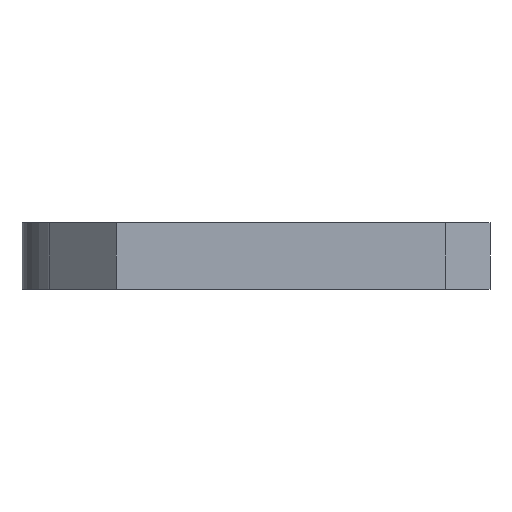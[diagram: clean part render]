
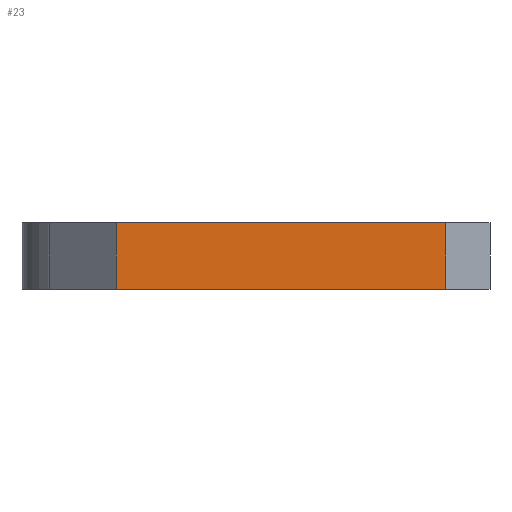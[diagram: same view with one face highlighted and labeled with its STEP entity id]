
A CAD part, front view. The second image highlights one B-rep face of the part: STEP entity #23.
In plain terms, the highlighted free-form (B-spline) face has degree [2, 1] with [3, 2] control points.
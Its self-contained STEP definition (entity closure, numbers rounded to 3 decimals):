
#23=ADVANCED_FACE('',(#71),#757,.T.);
#71=FACE_OUTER_BOUND('',#119,.T.);
#119=EDGE_LOOP('',(#247,#248,#249,#250));
#247=ORIENTED_EDGE('',*,*,#422,.T.);
#248=ORIENTED_EDGE('',*,*,#442,.T.);
#249=ORIENTED_EDGE('',*,*,#415,.F.);
#250=ORIENTED_EDGE('',*,*,#445,.F.);
#415=EDGE_CURVE('',#683,#684,#580,.T.);
#422=EDGE_CURVE('',#709,#710,#587,.T.);
#442=EDGE_CURVE('',#710,#684,#607,.T.);
#445=EDGE_CURVE('',#709,#683,#610,.T.);
#580=(
BOUNDED_CURVE()
B_SPLINE_CURVE(2,(#1440,#1441,#1442),.UNSPECIFIED.,.F.,.F.)
B_SPLINE_CURVE_WITH_KNOTS((3,3),(540.736,590.244),
 .UNSPECIFIED.)
CURVE()
GEOMETRIC_REPRESENTATION_ITEM()
RATIONAL_B_SPLINE_CURVE((1.,1.,1.))
REPRESENTATION_ITEM('')
);
#587=(
BOUNDED_CURVE()
B_SPLINE_CURVE(2,(#1467,#1468,#1469),.UNSPECIFIED.,.F.,.F.)
B_SPLINE_CURVE_WITH_KNOTS((3,3),(540.736,590.244),
 .UNSPECIFIED.)
CURVE()
GEOMETRIC_REPRESENTATION_ITEM()
RATIONAL_B_SPLINE_CURVE((1.,1.,1.))
REPRESENTATION_ITEM('')
);
#607=(
BOUNDED_CURVE()
B_SPLINE_CURVE(1,(#1528,#1529),.UNSPECIFIED.,.F.,.F.)
B_SPLINE_CURVE_WITH_KNOTS((2,2),(0.,10.),.UNSPECIFIED.)
CURVE()
GEOMETRIC_REPRESENTATION_ITEM()
RATIONAL_B_SPLINE_CURVE((1.,1.))
REPRESENTATION_ITEM('')
);
#610=(
BOUNDED_CURVE()
B_SPLINE_CURVE(1,(#1536,#1537),.UNSPECIFIED.,.F.,.F.)
B_SPLINE_CURVE_WITH_KNOTS((2,2),(0.,10.),.UNSPECIFIED.)
CURVE()
GEOMETRIC_REPRESENTATION_ITEM()
RATIONAL_B_SPLINE_CURVE((1.,1.))
REPRESENTATION_ITEM('')
);
#683=VERTEX_POINT('',#1366);
#684=VERTEX_POINT('',#1367);
#709=VERTEX_POINT('',#1392);
#710=VERTEX_POINT('',#1393);
#757=(
BOUNDED_SURFACE()
B_SPLINE_SURFACE(2,1,((#879,#880),(#881,#882),(#883,#884)),
 .UNSPECIFIED.,.F.,.F.,.F.)
B_SPLINE_SURFACE_WITH_KNOTS((3,3),(2,2),(540.736,590.244),
(0.,10.),.UNSPECIFIED.)
GEOMETRIC_REPRESENTATION_ITEM()
RATIONAL_B_SPLINE_SURFACE(((1.,1.),(1.,1.),(1.,1.)))
REPRESENTATION_ITEM('')
SURFACE()
);
#879=CARTESIAN_POINT('',(69.334,-62.122,30.));
#880=CARTESIAN_POINT('',(69.334,-62.122,40.));
#881=CARTESIAN_POINT('',(94.088,-62.122,30.));
#882=CARTESIAN_POINT('',(94.088,-62.122,40.));
#883=CARTESIAN_POINT('',(118.842,-62.122,30.));
#884=CARTESIAN_POINT('',(118.842,-62.122,40.));
#1366=CARTESIAN_POINT('',(69.334,-62.122,40.));
#1367=CARTESIAN_POINT('',(118.842,-62.122,40.));
#1392=CARTESIAN_POINT('',(69.334,-62.122,30.));
#1393=CARTESIAN_POINT('',(118.842,-62.122,30.));
#1440=CARTESIAN_POINT('',(69.334,-62.122,40.));
#1441=CARTESIAN_POINT('',(94.088,-62.122,40.));
#1442=CARTESIAN_POINT('',(118.842,-62.122,40.));
#1467=CARTESIAN_POINT('',(69.334,-62.122,30.));
#1468=CARTESIAN_POINT('',(94.088,-62.122,30.));
#1469=CARTESIAN_POINT('',(118.842,-62.122,30.));
#1528=CARTESIAN_POINT('',(118.842,-62.122,30.));
#1529=CARTESIAN_POINT('',(118.842,-62.122,40.));
#1536=CARTESIAN_POINT('',(69.334,-62.122,30.));
#1537=CARTESIAN_POINT('',(69.334,-62.122,40.));
